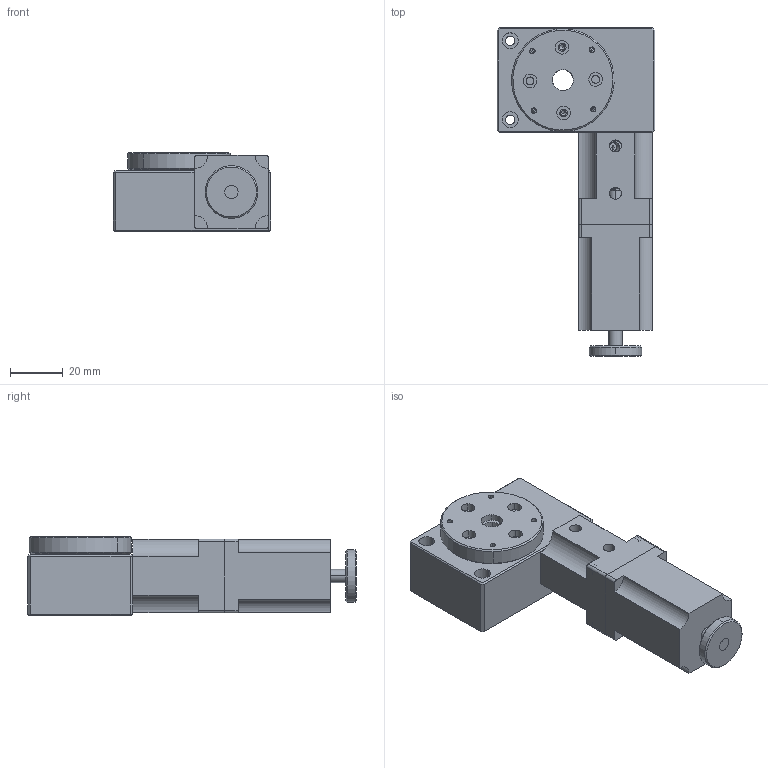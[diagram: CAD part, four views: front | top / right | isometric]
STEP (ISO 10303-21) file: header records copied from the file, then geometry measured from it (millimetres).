
FILE_DESCRIPTION (( 'STEP AP203' ), '1' );
FILE_NAME ('PX110-30.STEP', '2025-06-17T02:24:11', ( '' ), ( '' ), 'SwSTEP 2.0', 'SolidWorks 2023', '' );
FILE_SCHEMA (( 'CONFIG_CONTROL_DESIGN' ));
Length unit declared in the file: millimetre
Products named in the file (1): PX110-30
Bounding box: 60 x 125 x 30 mm (x, y, z)
Volume: 103764.1 mm3; surface area: 47132.4 mm2
Topology: 16 solids, 16 shells, 606 faces, 1619 edges, 1055 vertices
Faces by surface type: cylinder 341, plane 183, cone 64, bspline 18
Entity records: 25763 total; most frequent: CARTESIAN_POINT 10613, ORIENTED_EDGE 3158, DIRECTION 3097, EDGE_CURVE 1579, AXIS2_PLACEMENT_3D 1239, VERTEX_POINT 1040, EDGE_LOOP 765, CIRCLE 650
